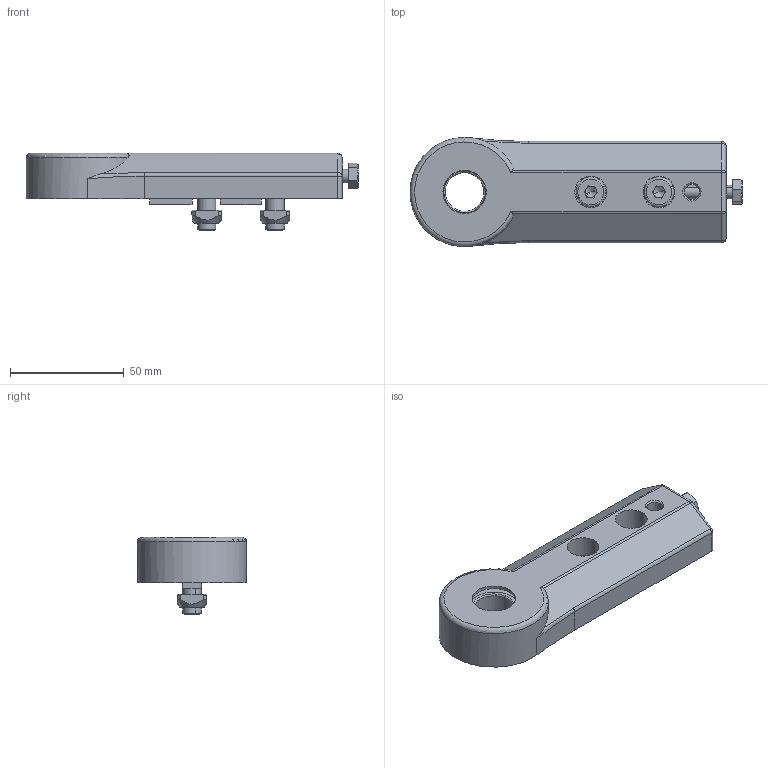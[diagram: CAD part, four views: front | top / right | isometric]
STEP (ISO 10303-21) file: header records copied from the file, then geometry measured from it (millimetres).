
FILE_DESCRIPTION (( 'STEP AP214' ), '1' );
FILE_NAME ('1.8118 Kuljetinlaakeri 45_32 reiällä Gen2.STEP', '2026-03-19T09:06:03', ( '' ), ( '' ), 'SwSTEP 2.0', 'SolidWorks 2025', '' );
FILE_SCHEMA (( 'AUTOMOTIVE_DESIGN' ));
Length unit declared in the file: millimetre
Products named in the file (6): 1.2009 Neliömutteri M8; 1.2085 Kuusiokoloruuvi M8x20; 1.2161 kuusiokantaruuvi M6x25; 2203-2RS; L00120 KHL 45_32 reiällä Gen2; 1.8118 Kuljetinlaakeri 45_32 reiällä Gen2
Assembly tree (7 placements, depth 2):
  1.8118 Kuljetinlaakeri 45_32 reiällä Gen2
    1.2161 kuusiokantaruuvi M6x25
    L00120 KHL 45_32 reiällä Gen2
    2203-2RS
    1.2009 Neliömutteri M8  x2
    1.2085 Kuusiokoloruuvi M8x20  x2
Bounding box: 146 x 48 x 34 mm (x, y, z)
Volume: 85919.2 mm3; surface area: 30430.7 mm2
Topology: 6 solids, 8 shells, 215 faces, 497 edges, 302 vertices
Faces by surface type: plane 86, cylinder 54, cone 48, bspline 14, torus 9, sphere 4
Entity records: 6095 total; most frequent: CARTESIAN_POINT 1473, DIRECTION 806, ORIENTED_EDGE 758, EDGE_CURVE 383, AXIS2_PLACEMENT_3D 322, VERTEX_POINT 235, EDGE_LOOP 194, FACE_OUTER_BOUND 168
